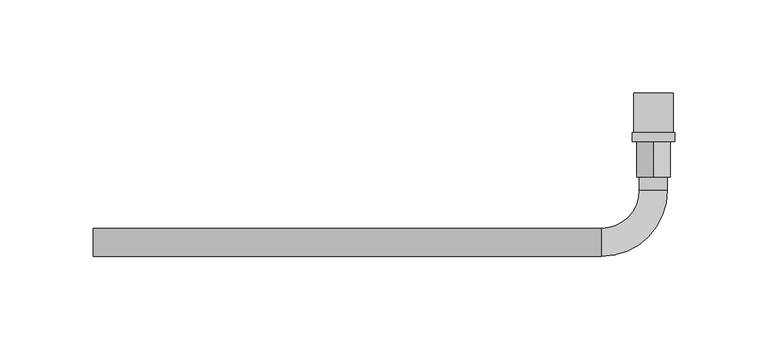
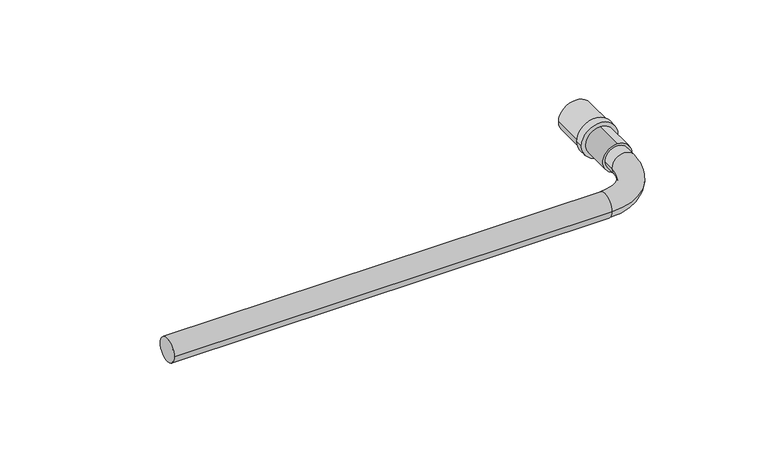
"""IFC4 building model written with IfcOpenShell, lengths in millimetres: pipe fitting geometry, PIF_Tigris_Elbow_Cu_30cm_M5_Wavin : Diameters 16-15."""

import ifcopenshell
import ifcopenshell.guid

model = None  # the IFC model being written
_history = None  # IfcOwnerHistory: only IFC2X3 demands one
_inside = {}  # id of a spatial element -> (the spatial element, [elements in it])
_under = {}  # id of a project, library or spatial element -> (it, [spatial elements below it])
_declared = {}  # id of a project -> (the project, [libraries it declares])
_typed = {}  # id of a type object -> (the type object, [elements of that type])
_made_of = {}  # id of a material, layer set ... -> (it, [elements and type objects made of it])


def new_model(schema):
    """Start an empty IFC model of exactly this schema.

    Asked for "IFC4X3", IfcOpenShell would pick the latest addendum, in which some entities
    have other attributes; the version numbers below select the first issue.
    IFC2X3 requires an IfcOwnerHistory on every rooted entity: one is made here for all.
    """
    global model, _history
    if schema == "IFC4X3":
        model = ifcopenshell.file(schema_version=(4, 3, 0, 0))
    else:
        model = ifcopenshell.file(schema=schema)
    _inside.clear()
    _under.clear()
    _declared.clear()
    _typed.clear()
    _made_of.clear()
    _history = None
    if model.schema == "IFC2X3":
        org = make("IfcOrganization", Name="unknown")
        user = make(
            "IfcPersonAndOrganization",
            ThePerson=make("IfcPerson", FamilyName="unknown"),
            TheOrganization=org,
        )
        app = make(
            "IfcApplication",
            ApplicationDeveloper=org,
            Version="unknown",
            ApplicationFullName="unknown",
            ApplicationIdentifier="unknown",
        )
        _history = make(
            "IfcOwnerHistory",
            OwningUser=user,
            OwningApplication=app,
            ChangeAction="ADDED",
            CreationDate=0,
        )
    return model


def make(cls, **values):
    """One entity of the class cls with the attributes given. An attribute that is None is left unset."""
    return model.create_entity(
        cls, **{name: value for name, value in values.items() if value is not None}
    )


def rooted(cls, **values):
    """An entity with a GlobalId (a new one), such as an element, a storey or a relation."""
    return make(cls, GlobalId=ifcopenshell.guid.new(), OwnerHistory=_history, **values)


def si_unit(unit_type, name, prefix=None):
    """IfcSIUnit, for example si_unit("LENGTHUNIT", "METRE", prefix="MILLI")."""
    return make("IfcSIUnit", UnitType=unit_type, Prefix=prefix, Name=name)


def assignment(units):
    """IfcUnitAssignment: the units of a project."""
    return None if units is None else make("IfcUnitAssignment", Units=units)


def point(xyz):
    """IfcCartesianPoint."""
    return None if xyz is None else make("IfcCartesianPoint", Coordinates=xyz)


def direction(xyz):
    """IfcDirection."""
    return None if xyz is None else make("IfcDirection", DirectionRatios=xyz)


def frame(location, z_axis=None, x_axis=None):
    """IfcAxis2Placement3D, a coordinate frame: its origin and axes. An axis left out is left unset."""
    return make(
        "IfcAxis2Placement3D",
        Location=point(location),
        Axis=direction(z_axis),
        RefDirection=direction(x_axis),
    )


def frame_2d(location, x_axis=None):
    """IfcAxis2Placement2D, a coordinate frame in the plane: its origin and x axis."""
    return make(
        "IfcAxis2Placement2D", Location=point(location), RefDirection=direction(x_axis)
    )


def origin():
    """The frame at (0, 0, 0) with its axes left unset."""
    return frame((0.0, 0.0, 0.0))


def origin_2d():
    """The frame at (0, 0) in the plane with its x axis left unset."""
    return frame_2d((0.0, 0.0))


def place(relative_to, where):
    """IfcLocalPlacement: puts the frame where relative to a parent placement (None: the world)."""
    return make(
        "IfcLocalPlacement", PlacementRelTo=relative_to, RelativePlacement=where
    )


def context(
    kind, dimensions, precision=None, world=None, true_north=None, identifier=None
):
    """IfcGeometricRepresentationContext, for example the 3D "Model" context."""
    return make(
        "IfcGeometricRepresentationContext",
        ContextIdentifier=identifier,
        ContextType=kind,
        CoordinateSpaceDimension=dimensions,
        Precision=precision,
        WorldCoordinateSystem=world,
        TrueNorth=true_north,
    )


def project(units=None, contexts=None):
    """IfcProject with its units and contexts."""
    return rooted(
        "IfcProject",
        Name="project",
        RepresentationContexts=contexts,
        UnitsInContext=assignment(units),
    )


def spatial(cls, under=None, at=None, **own):
    """A site, building, storey or space (cls), placed at a placement, below another one or the project."""
    s = rooted(cls, ObjectPlacement=at, **own)
    if under is not None:
        _under.setdefault(under.id(), (under, []))[1].append(s)
    return s


def circle_curve(where, radius):
    """IfcCircle in the frame where."""
    return make("IfcCircle", Position=where, Radius=radius)


def ellipse_curve(where, semi_axis1, semi_axis2):
    """IfcEllipse in the frame where."""
    return make(
        "IfcEllipse", Position=where, SemiAxis1=semi_axis1, SemiAxis2=semi_axis2
    )


def trimmed(basis, trim1, trim2, sense, master):
    """IfcTrimmedCurve: the piece of a basis curve between two trims."""
    return make(
        "IfcTrimmedCurve",
        BasisCurve=basis,
        Trim1=trim1,
        Trim2=trim2,
        SenseAgreement=sense,
        MasterRepresentation=master,
    )


def segment(curve, same_sense, transition):
    """IfcCompositeCurveSegment."""
    return make(
        "IfcCompositeCurveSegment",
        Transition=transition,
        SameSense=same_sense,
        ParentCurve=curve,
    )


def composite_curve(segments, self_intersect=None):
    """IfcCompositeCurve: segments joined end to end."""
    return make("IfcCompositeCurve", Segments=segments, SelfIntersect=self_intersect)


def outline(outer, holes=None, kind="AREA"):
    """IfcArbitraryClosedProfileDef: a profile drawn as a closed curve; with holes, ...WithVoids."""
    if holes is None:
        return make("IfcArbitraryClosedProfileDef", ProfileType=kind, OuterCurve=outer)
    return make(
        "IfcArbitraryProfileDefWithVoids",
        ProfileType=kind,
        OuterCurve=outer,
        InnerCurves=holes,
    )


def extrude(swept, where, along, depth):
    """IfcExtrudedAreaSolid: the profile swept, set in the frame where, extruded along a direction by depth."""
    return make(
        "IfcExtrudedAreaSolid",
        SweptArea=swept,
        Position=where,
        ExtrudedDirection=direction(along),
        Depth=depth,
    )


def shape(context_of_items, identifier, shape_type, items):
    """IfcShapeRepresentation: the items that make up one representation, for example the "Body"."""
    return make(
        "IfcShapeRepresentation",
        ContextOfItems=context_of_items,
        RepresentationIdentifier=identifier,
        RepresentationType=shape_type,
        Items=items,
    )


def source(mapping_origin, context_of_items, identifier, shape_type, items):
    """IfcRepresentationMap: a shape defined once, which mapped items show again and again."""
    return make(
        "IfcRepresentationMap",
        MappingOrigin=mapping_origin,
        MappedRepresentation=shape(context_of_items, identifier, shape_type, items),
    )


def transform(
    local_origin,
    x_axis=None,
    y_axis=None,
    z_axis=None,
    scale=None,
    scale2=None,
    scale3=None,
    uniform=True,
):
    """IfcCartesianTransformationOperator3D, or its non-uniform kind. x_axis, y_axis, z_axis: its Axis1, 2, 3."""
    if uniform:
        return make(
            "IfcCartesianTransformationOperator3D",
            Axis1=direction(x_axis),
            Axis2=direction(y_axis),
            LocalOrigin=point(local_origin),
            Scale=scale,
            Axis3=direction(z_axis),
        )
    return make(
        "IfcCartesianTransformationOperator3DnonUniform",
        Axis1=direction(x_axis),
        Axis2=direction(y_axis),
        LocalOrigin=point(local_origin),
        Scale=scale,
        Axis3=direction(z_axis),
        Scale2=scale2,
        Scale3=scale3,
    )


def mapped(mapping_source, mapping_target):
    """IfcMappedItem: shows the shape of a source again, moved by a transform."""
    return make(
        "IfcMappedItem", MappingSource=mapping_source, MappingTarget=mapping_target
    )


def made_of(thing, what):
    """Note that an element or type object is made of a material, layer set ...; save() writes the relation."""
    if what is not None:
        _made_of.setdefault(what.id(), (what, []))[1].append(thing)
    return thing


def element(
    cls,
    number,
    at=None,
    inside=None,
    cuts=None,
    type_object=None,
    material=None,
    context=None,
    identifier="Body",
    shape_type=None,
    held_by="IfcProductDefinitionShape",
    body=None,
    shapes=None,
    **own,
):
    """One element of the class cls, such as IfcWall. Its Tag is "e" and its number.

    at: its placement. inside: the storey or other place that contains it. cuts: it is an
    opening in that element (IfcRelVoidsElement). A single representation is given by context,
    identifier, shape_type and body (its items); several are given by shapes. held_by: the class
    of the entity that holds the representations. save() writes the other relations.
    """
    e = rooted(cls, Tag="e%d" % number, ObjectPlacement=at, **own)
    if body is not None:
        shapes = [shape(context, identifier, shape_type, body)]
    if shapes is not None:
        e.Representation = make(held_by, Representations=shapes)
    if inside is not None:
        _inside.setdefault(inside.id(), (inside, []))[1].append(e)
    if cuts is not None:
        rooted(
            "IfcRelVoidsElement", RelatingBuildingElement=cuts, RelatedOpeningElement=e
        )
    if type_object is not None:
        _typed.setdefault(type_object.id(), (type_object, []))[1].append(e)
    return made_of(e, material)


def aggregate(whole, parts):
    """IfcRelAggregates: a whole, such as a stair, and the parts it consists of."""
    return rooted("IfcRelAggregates", RelatingObject=whole, RelatedObjects=parts)


def save(model, path):
    """Write the relations noted so far, then the file.

    IfcRelAggregates (storeys below a building ...), IfcRelContainedInSpatialStructure (elements
    in a storey), IfcRelDefinesByType, IfcRelAssociatesMaterial and IfcRelDeclares: one each for
    every whole, place, type object, material and project.
    """
    for whole, parts in _under.values():
        aggregate(whole, parts)
    for where, things in _inside.values():
        rooted(
            "IfcRelContainedInSpatialStructure",
            RelatedElements=things,
            RelatingStructure=where,
        )
    for kind, things in _typed.values():
        rooted("IfcRelDefinesByType", RelatedObjects=things, RelatingType=kind)
    for what, things in _made_of.values():
        rooted("IfcRelAssociatesMaterial", RelatedObjects=things, RelatingMaterial=what)
    for by, libraries in _declared.values():
        rooted("IfcRelDeclares", RelatingContext=by, RelatedDefinitions=libraries)
    model.write(path)


def plane_surface(at):
    """IfcPlane: the flat surface through the origin of the frame at, square to its z axis."""
    return make("IfcPlane", Position=at)


def cylinder_surface(at, radius):
    """IfcCylindricalSurface: all points at the distance radius from the z axis of the frame at."""
    return make("IfcCylindricalSurface", Position=at, Radius=radius)


def revolved_surface(curve, axis_point, axis_direction):
    """IfcSurfaceOfRevolution: the curve turned about the line through axis_point along axis_direction."""
    return make(
        "IfcSurfaceOfRevolution",
        SweptCurve=make("IfcArbitraryOpenProfileDef", ProfileType="CURVE", Curve=curve),
        AxisPosition=make("IfcAxis1Placement", Location=point(axis_point), Axis=direction(axis_direction)),
    )


def advanced_brep(points, edges, surfaces, faces):
    """IfcAdvancedBrep: a solid bounded by faces that lie on surfaces and meet in shared edges.

    An edge is (start, end): straight between two places in points (the first is 0);
    or (start, end, curve); or (start, end, curve, False) where it runs against its curve.
    A face is (place in surfaces, loops), or (place, loops, False) where it looks against
    its surface's normal. A loop lists edges by number (the first is 1), with a minus sign
    where the edge is run from its end to its start. The first loop is the outer one.
    """
    corners = [point(p) for p in points]
    vertices = [make("IfcVertexPoint", VertexGeometry=c) for c in corners]
    made = []
    for start, end, *more in edges:
        made.append(
            make(
                "IfcEdgeCurve",
                EdgeStart=vertices[start],
                EdgeEnd=vertices[end],
                EdgeGeometry=more[0] if more else make("IfcPolyline", Points=[corners[start], corners[end]]),
                SameSense=more[1] if len(more) > 1 else True,
            )
        )
    hull = []
    for where, loops, *sense in faces:
        bounds = []
        for j, loop in enumerate(loops):
            ring = [make("IfcOrientedEdge", EdgeElement=made[abs(k) - 1], Orientation=k > 0) for k in loop]
            bounds.append(
                make(
                    "IfcFaceOuterBound" if j == 0 else "IfcFaceBound",
                    Bound=make("IfcEdgeLoop", EdgeList=ring),
                    Orientation=True,
                )
            )
        hull.append(make("IfcAdvancedFace", Bounds=bounds, FaceSurface=surfaces[where], SameSense=sense[0] if sense else True))
    return make("IfcAdvancedBrep", Outer=make("IfcClosedShell", CfsFaces=hull))


def pipe_fitting_f4479bfb(model_context):
    return source(origin(), model_context, "Body", "SolidModel", [
        extrude(outline(composite_curve([segment(trimmed(circle_curve(origin_2d(), 11.35), [point((0.0, -11.35))], [point((0.0, 11.35))], False, "CARTESIAN"), True, "CONTINUOUS"), segment(trimmed(circle_curve(origin_2d(), 11.35), [point((0.0, 11.35))], [point((0.0, -11.35))], False, "CARTESIAN"), True, "CONTINUOUS")], self_intersect=False)), frame((0.0, 54.0, 0.0), z_axis=(0.0, 1.0, 0.0), x_axis=(0.0, 0.0, 1.0)), (0.0, 0.0, 1.0), 5.0),
        extrude(outline(composite_curve([segment(trimmed(circle_curve(origin_2d(), 10.5), [point((0.0, -10.5))], [point((0.0, 10.5))], False, "CARTESIAN"), True, "CONTINUOUS"), segment(trimmed(circle_curve(origin_2d(), 10.5), [point((0.0, 10.5))], [point((0.0, -10.5))], False, "CARTESIAN"), True, "CONTINUOUS")], self_intersect=False), holes=[composite_curve([segment(trimmed(circle_curve(origin_2d(), 8.2), [point((0.0, -8.2))], [point((0.0, 8.2))], True, "CARTESIAN"), True, "CONTINUOUS"), segment(trimmed(circle_curve(origin_2d(), 8.2), [point((0.0, 8.2))], [point((0.0, -8.2))], True, "CARTESIAN"), True, "CONTINUOUS")], self_intersect=False)]), frame((0.0, 59.0, 0.0), z_axis=(0.0, 1.0, 0.0), x_axis=(0.0, 0.0, 1.0)), (0.0, 0.0, 1.0), 21.0),
        extrude(outline(composite_curve([segment(trimmed(circle_curve(origin_2d(), 6.1), [point((0.0, -6.1))], [point((0.0, 6.1))], False, "CARTESIAN"), True, "CONTINUOUS"), segment(trimmed(circle_curve(origin_2d(), 6.1), [point((0.0, 6.1))], [point((0.0, -6.1))], False, "CARTESIAN"), True, "CONTINUOUS")], self_intersect=False), holes=[composite_curve([segment(trimmed(circle_curve(origin_2d(), 4.0), [point((0.0, -4.0))], [point((0.0, 4.0))], True, "CARTESIAN"), True, "CONTINUOUS"), segment(trimmed(circle_curve(origin_2d(), 4.0), [point((0.0, 4.0))], [point((0.0, -4.0))], True, "CARTESIAN"), True, "CONTINUOUS")], self_intersect=False)]), frame((0.0, 55.0, 0.0), z_axis=(0.0, 1.0, 0.0), x_axis=(0.0, 0.0, 1.0)), (0.0, 0.0, 1.0), 25.0),
        advanced_brep(
        [(-300.0, 7.5, 0.0), (-300.0, -7.5, 0.0), (-28.0, -7.5, 0.0), (-28.0, 7.5, 0.0), (-7.5, 55.0, 0.0), (7.5, 55.0, 0.0), (7.5, 28.0, 0.0), (-7.5, 28.0, 0.0)],
        [
            (0, 1, circle_curve(frame((-300.0, 0.0, 0.0), z_axis=(-1.0, 0.0, 0.0), x_axis=(0.0, -1.0000000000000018, 0.0)), 7.5)),
            (1, 0, circle_curve(frame((-300.0, 0.0, 0.0), z_axis=(-1.0, 0.0, 0.0), x_axis=(0.0, -1.0000000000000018, 0.0)), 7.5)),
            (1, 2),
            (2, 3, circle_curve(frame((-28.0, 0.0, 0.0), z_axis=(-1.0, 0.0, 0.0), x_axis=(0.0, -1.0000000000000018, 0.0)), 7.5)),
            (3, 0),
            (3, 2, circle_curve(frame((-28.0, 0.0, 0.0), z_axis=(-1.0, 0.0, 0.0), x_axis=(0.0, -1.0000000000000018, 0.0)), 7.5)),
            (4, 5, circle_curve(frame((0.0, 55.0, 0.0), z_axis=(0.0, 1.0, 0.0), x_axis=(1.0000000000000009, 0.0, 0.0)), 7.5)),
            (5, 4, circle_curve(frame((0.0, 55.0, 0.0), z_axis=(0.0, 1.0, 0.0), x_axis=(1.0000000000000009, 0.0, 0.0)), 7.5)),
            (6, 5),
            (4, 7),
            (7, 6, circle_curve(frame((0.0, 28.0, 0.0), z_axis=(0.0, 1.0, 0.0), x_axis=(1.0000000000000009, 0.0, 0.0)), 7.5)),
            (6, 7, circle_curve(frame((0.0, 28.0, 0.0), z_axis=(0.0, 1.0, 0.0), x_axis=(1.0000000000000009, 0.0, 0.0)), 7.5)),
            (7, 3, circle_curve(frame((-28.0, 28.0, 0.0), z_axis=(0.0, 0.0, -1.0), x_axis=(0.0, -1.0000000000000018, 0.0)), 20.5)),
            (2, 6, circle_curve(frame((-28.0, 28.0, 0.0), z_axis=(0.0, 0.0, 1.0), x_axis=(0.0, -1.0000000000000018, 0.0)), 35.5)),
        ],
        [
            plane_surface(frame((-300.0, 0.0, 0.0), z_axis=(-1.0, 0.0, 0.0), x_axis=(0.0, 0.0, 1.0))),
            cylinder_surface(frame((-300.0, 0.0, 0.0), z_axis=(-1.0000000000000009, 0.0, 0.0), x_axis=(0.0, -1.0000000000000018, 0.0)), 7.5),
            plane_surface(frame((0.0, 55.0, 0.0), z_axis=(0.0, 1.0, 0.0), x_axis=(0.0, 0.0, 1.0))),
            cylinder_surface(frame((0.0, 28.0, 0.0), z_axis=(0.0, -1.0000000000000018, 0.0), x_axis=(1.0000000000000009, 0.0, 0.0)), 7.5),
            revolved_surface(trimmed(ellipse_curve(frame((-28.0, 0.0, 0.0), z_axis=(1.0000000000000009, 0.0, 0.0), x_axis=(0.0, -1.0000000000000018, 0.0)), 7.5, 7.5), [point((-28.0, 7.5, 0.0))], [point((-28.0, -7.5, 0.0))], True, "CARTESIAN"), (-28.0, 28.0, 0.0), (0.0, 0.0, -1.0000000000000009)),
            revolved_surface(trimmed(ellipse_curve(frame((-28.0, 0.0, 0.0), z_axis=(1.0000000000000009, 0.0, 0.0), x_axis=(0.0, -1.0000000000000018, 0.0)), 7.5, 7.5), [point((-28.0, -7.5, 0.0))], [point((-28.0, 7.5, 0.0))], True, "CARTESIAN"), (-28.0, 28.0, 0.0), (0.0, 0.0, -1.0000000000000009)),
        ],
        [
            (0, [[1, 2]]),
            (1, [[3, 4, 5, -2]]),
            (1, [[-5, 6, -3, -1]]),
            (2, [[7, 8]]),
            (3, [[9, -7, 10, 11]]),
            (3, [[-10, -8, -9, 12]]),
            (4, [[-11, 13, -4, 14]]),
            (5, [[-12, -14, -6, -13]]),
        ],
    ),
        extrude(outline(composite_curve([segment(trimmed(circle_curve(origin_2d(), 9.0), [point((-9.0, 0.0))], [point((9.0, 0.0))], False, "CARTESIAN"), True, "CONTINUOUS"), segment(trimmed(circle_curve(origin_2d(), 9.0), [point((9.0, 0.0))], [point((-9.0, 0.0))], False, "CARTESIAN"), True, "CONTINUOUS")], self_intersect=False)), frame((0.0, 35.0, 0.0), z_axis=(0.0, 1.0, 0.0), x_axis=(0.0, 0.0, 1.0)), (0.0, 0.0, 1.0), 19.0),
    ])


if __name__ == "__main__":
    model = new_model("IFC4")
    model_context = context("Model", 3, world=origin())
    ifc_project = project(units=[si_unit("LENGTHUNIT", "METRE", prefix="MILLI")], contexts=[model_context])
    site = spatial("IfcSite", under=ifc_project)
    building = spatial("IfcBuilding", under=site)
    placement = place(None, origin())
    pipe_fitting_shape = pipe_fitting_f4479bfb(model_context)
    element("IfcPipeFitting", 1, ObjectType="PIF_Tigris_Elbow_Cu_30cm_M5_Wavin : Diameters 16-15", at=placement, inside=building, context=model_context, shape_type="MappedRepresentation", body=[
        mapped(pipe_fitting_shape, transform((0.0, 0.0, 0.0), x_axis=(1.0, 0.0, 0.0), y_axis=(0.0, 1.0, 0.0), z_axis=(0.0, 0.0, 1.0))),
    ])
    save(model, "model.ifc")
